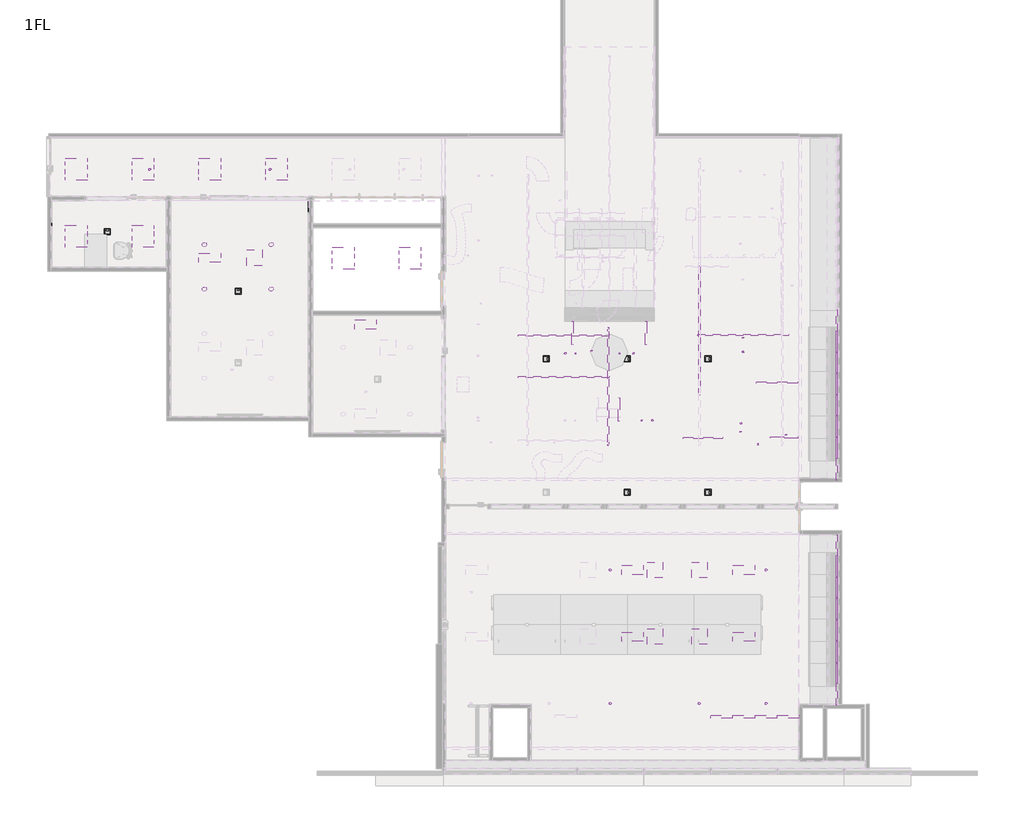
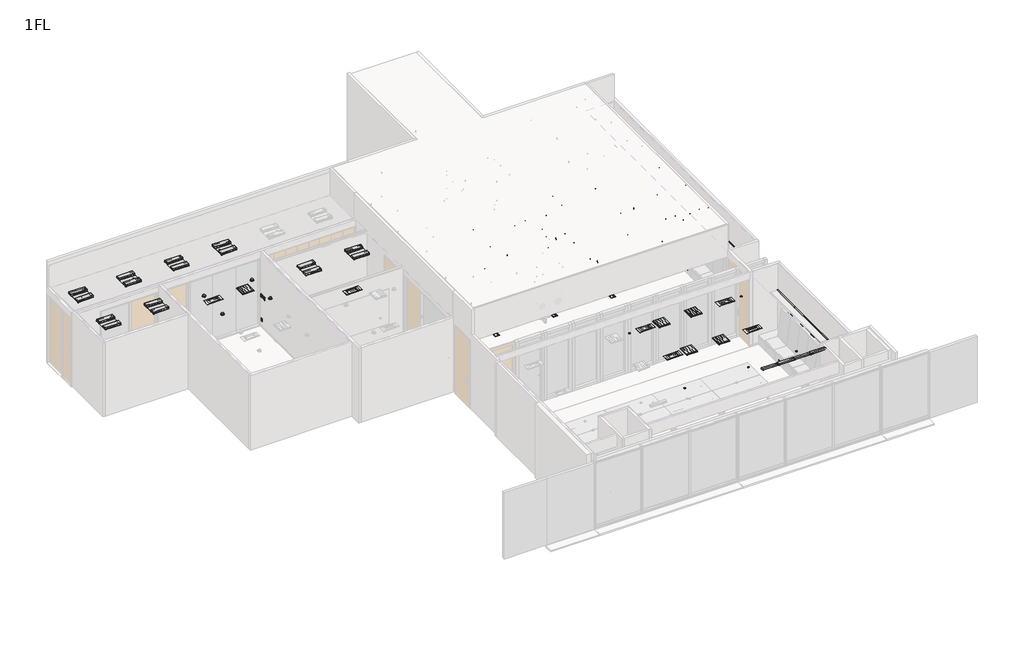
# One storey, part 8 of 13: 27 light fixtures, 18 proxies, 16 switching devices, 15 air terminals, 12 fire suppression terminals.
"""IFC4 building model written with IfcOpenShell, lengths in millimetres."""

from ifc_helpers import new_model, si_unit, origin, place, context, project, spatial, transform, mapped, element, save
from components import exhaust_grill_exhaust_grill_6b1b1e3d, exhaust_grill_02_exhaust_grill_02_eb34b7bc, exhaust_grill_03_exhaust_grill_03_8e485aa9, mechanical_equipment_2392824e, mechanical_equipment_dfcd9e7d, mechanical_equipment_e47298fa, mechanical_equipment_3a0a9f88, mechanical_equipment_328bce3f, mechanical_equipment_df2ff21b, mechanical_equipment_5023066d, mechanical_equipment_ec24bd99, mechanical_equipment_3f4d8ae7, duct_hanger_fe628b02, duct_hanger_4aceb5c8, duct_hanger_8c74980c, duct_hanger_e7696182, duct_hanger_0f291719, sprinkler_01_sprinkler_01_96afb536, sprinkler_02_sprinkler_02_93df4523, sprinkler_02_sprinkler_02_5ab57ab1, sprinkler_02_sprinkler_02_4dfef579, line_light_l1151_cde67e3c, spot_light_spot_light_ad288893, standard_light_standard_light_0c722ef9, u1_3bccbc15, switching_device_beee7f32, flooringoutlet_flooringoutlet_d7723352, outlet_01_outlet_443ef776, outlet_03_outlet_fbeceace

model = new_model("IFC4")

# Units and contexts
model_context = context("Model", 3, world=origin())
ifc_project = project(units=[si_unit("LENGTHUNIT", "METRE", prefix="MILLI")], contexts=[model_context])

# Site, building, storey
site = spatial("IfcSite", under=ifc_project)
building = spatial("IfcBuilding", under=site)
storey = spatial("IfcBuildingStorey", under=building, Name="1FL", Elevation=500.0)

# Air terminals
placement = place(None, origin())
exhaust_grill_exhaust_grill_shape = exhaust_grill_exhaust_grill_6b1b1e3d(model_context)
element("IfcAirTerminal", 1, ObjectType="Exhaust-Grill : Exhaust-Grill", at=placement, inside=storey, context=model_context, shape_type="MappedRepresentation", body=[
    mapped(exhaust_grill_exhaust_grill_shape, transform((17243.0545172, -8395.8098825, -600.0), x_axis=(1.0, 0.0, 0.0), y_axis=(0.0, 1.0, 0.0), z_axis=(0.0, 0.0, 1.0))),
])
element("IfcAirTerminal", 2, ObjectType="Exhaust-Grill : Exhaust-Grill", at=placement, inside=storey, context=model_context, shape_type="MappedRepresentation", body=[
    mapped(exhaust_grill_exhaust_grill_shape, transform((17243.0545172, -6595.809787, -600.0), x_axis=(1.0, 0.0, 0.0), y_axis=(0.0, 1.0, 0.0), z_axis=(0.0, 0.0, 1.0))),
])
element("IfcAirTerminal", 3, ObjectType="Exhaust-Grill : Exhaust-Grill", at=placement, inside=storey, context=model_context, shape_type="MappedRepresentation", body=[
    mapped(exhaust_grill_exhaust_grill_shape, transform((18443.0545172, -8395.8098825, -600.0), x_axis=(1.0, 0.0, 0.0), y_axis=(0.0, 1.0, 0.0), z_axis=(0.0, 0.0, 1.0))),
])
element("IfcAirTerminal", 4, ObjectType="Exhaust-Grill : Exhaust-Grill", at=placement, inside=storey, context=model_context, shape_type="MappedRepresentation", body=[
    mapped(exhaust_grill_exhaust_grill_shape, transform((18443.0545172, -6595.809787, -600.0), x_axis=(1.0, 0.0, 0.0), y_axis=(0.0, 1.0, 0.0), z_axis=(0.0, 0.0, 1.0))),
])
element("IfcAirTerminal", 5, ObjectType="Exhaust-Grill : Exhaust-Grill", at=placement, inside=storey, context=model_context, shape_type="MappedRepresentation", body=[
    mapped(exhaust_grill_exhaust_grill_shape, transform((6444.2212716, 1822.8786843, -600.0), x_axis=(1.0, 0.0, 0.0), y_axis=(0.0, 1.0, 0.0), z_axis=(0.0, 0.0, 1.0))),
])
exhaust_grill_02_exhaust_grill_02_shape = exhaust_grill_02_exhaust_grill_02_eb34b7bc(model_context)
element("IfcAirTerminal", 6, ObjectType="Exhaust-Grill_02 : Exhaust-Grill_02", at=placement, inside=storey, context=model_context, shape_type="MappedRepresentation", body=[
    mapped(exhaust_grill_02_exhaust_grill_02_shape, transform((16641.2355729, -8395.8098825, -600.0), x_axis=(1.0, 0.0, 0.0), y_axis=(0.0, 1.0, 0.0), z_axis=(0.0, 0.0, 1.0))),
])
element("IfcAirTerminal", 7, ObjectType="Exhaust-Grill_02 : Exhaust-Grill_02", at=placement, inside=storey, context=model_context, shape_type="MappedRepresentation", body=[
    mapped(exhaust_grill_02_exhaust_grill_02_shape, transform((16641.2355729, -6595.809787, -600.0), x_axis=(1.0, 0.0, 0.0), y_axis=(0.0, 1.0, 0.0), z_axis=(0.0, 0.0, 1.0))),
])
element("IfcAirTerminal", 8, ObjectType="Exhaust-Grill_02 : Exhaust-Grill_02", at=placement, inside=storey, context=model_context, shape_type="MappedRepresentation", body=[
    mapped(exhaust_grill_02_exhaust_grill_02_shape, transform((19640.7354661, -8395.8098825, -600.0), x_axis=(1.0, 0.0, 0.0), y_axis=(0.0, 1.0, 0.0), z_axis=(0.0, 0.0, 1.0))),
])
element("IfcAirTerminal", 9, ObjectType="Exhaust-Grill_02 : Exhaust-Grill_02", at=placement, inside=storey, context=model_context, shape_type="MappedRepresentation", body=[
    mapped(exhaust_grill_02_exhaust_grill_02_shape, transform((19640.7354661, -6595.809787, -600.0), x_axis=(1.0, 0.0, 0.0), y_axis=(0.0, 1.0, 0.0), z_axis=(0.0, 0.0, 1.0))),
])
element("IfcAirTerminal", 10, ObjectType="Exhaust-Grill_02 : Exhaust-Grill_02", at=placement, inside=storey, context=model_context, shape_type="MappedRepresentation", body=[
    mapped(exhaust_grill_02_exhaust_grill_02_shape, transform((9443.7363397, 23.3791373, -600.0), x_axis=(0.9999999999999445, -3.331627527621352e-07, 0.0), y_axis=(3.331627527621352e-07, 0.9999999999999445, 0.0), z_axis=(0.0, 0.0, 1.0))),
])
element("IfcAirTerminal", 11, ObjectType="Exhaust-Grill_02 : Exhaust-Grill_02", at=placement, inside=storey, context=model_context, shape_type="MappedRepresentation", body=[
    mapped(exhaust_grill_02_exhaust_grill_02_shape, transform((5243.73695, 1823.8796256, -600.0), x_axis=(0.9999999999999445, -3.331627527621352e-07, 0.0), y_axis=(3.331627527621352e-07, 0.9999999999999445, 0.0), z_axis=(0.0, 0.0, 1.0))),
])
exhaust_grill_03_exhaust_grill_03_shape = exhaust_grill_03_exhaust_grill_03_8e485aa9(model_context)
element("IfcAirTerminal", 12, ObjectType="Exhaust-Grill_03 : Exhaust-Grill_03", at=placement, inside=storey, context=model_context, shape_type="MappedRepresentation", body=[
    mapped(exhaust_grill_03_exhaust_grill_03_shape, transform((19041.2336084, -10551.1867364, -600.0), x_axis=(1.0, 0.0, 0.0), y_axis=(0.0, 1.0, 0.0), z_axis=(0.0, 0.0, 1.0))),
])
element("IfcAirTerminal", 13, ObjectType="Exhaust-Grill_03 : Exhaust-Grill_03", at=placement, inside=storey, context=model_context, shape_type="MappedRepresentation", body=[
    mapped(exhaust_grill_03_exhaust_grill_03_shape, transform((19641.2336084, -10551.1867364, -600.0), x_axis=(1.0, 0.0, 0.0), y_axis=(0.0, 1.0, 0.0), z_axis=(0.0, 0.0, 1.0))),
])
element("IfcAirTerminal", 14, ObjectType="Exhaust-Grill_03 : Exhaust-Grill_03", at=placement, inside=storey, context=model_context, shape_type="MappedRepresentation", body=[
    mapped(exhaust_grill_03_exhaust_grill_03_shape, transform((20241.2336084, -10551.1867364, -600.0), x_axis=(1.0, 0.0, 0.0), y_axis=(0.0, 1.0, 0.0), z_axis=(0.0, 0.0, 1.0))),
])
element("IfcAirTerminal", 15, ObjectType="Exhaust-Grill_03 : Exhaust-Grill_03", at=placement, inside=storey, context=model_context, shape_type="MappedRepresentation", body=[
    mapped(exhaust_grill_03_exhaust_grill_03_shape, transform((20841.2336084, -10551.1867364, -600.0), x_axis=(1.0, 0.0, 0.0), y_axis=(0.0, 1.0, 0.0), z_axis=(0.0, 0.0, 1.0))),
])

# Proxies
mechanical_equipment_shape = mechanical_equipment_2392824e(model_context)
element("IfcBuildingElementProxy", 16, Name="Beared-Hanger : BearedHanger", ObjectType="Beared-Hanger : BearedHanger", at=placement, inside=storey, context=model_context, shape_type="MappedRepresentation", body=[
    mapped(mechanical_equipment_shape, transform((14790.2275582, -1391.0635764, 4470.0), x_axis=(1.0, 0.0, 0.0), y_axis=(0.0, 1.0, 0.0), z_axis=(0.0, 0.0, 1.0))),
])
mechanical_equipment_2_shape = mechanical_equipment_dfcd9e7d(model_context)
element("IfcBuildingElementProxy", 17, Name="Beared-Hanger : BearedHanger", ObjectType="Beared-Hanger : BearedHanger", at=placement, inside=storey, context=model_context, shape_type="MappedRepresentation", body=[
    mapped(mechanical_equipment_2_shape, transform((20727.7959176, -3019.6866233, 4470.0), x_axis=(1.0, 0.0, 0.0), y_axis=(0.0, 1.0, 0.0), z_axis=(0.0, 0.0, 1.0))),
])
mechanical_equipment_3_shape = mechanical_equipment_e47298fa(model_context)
element("IfcBuildingElementProxy", 18, Name="Beared-Hanger : BearedHanger", ObjectType="Beared-Hanger : BearedHanger", at=placement, inside=storey, context=model_context, shape_type="MappedRepresentation", body=[
    mapped(mechanical_equipment_3_shape, transform((18547.239277, -3034.7159202, 4470.0), x_axis=(1.0, 0.0, 0.0), y_axis=(0.0, 1.0, 0.0), z_axis=(0.0, 0.0, 1.0))),
])
mechanical_equipment_4_shape = mechanical_equipment_3a0a9f88(model_context)
element("IfcBuildingElementProxy", 19, Name="Beared-Hanger : BearedHanger", ObjectType="Beared-Hanger : BearedHanger", at=placement, inside=storey, context=model_context, shape_type="MappedRepresentation", body=[
    mapped(mechanical_equipment_4_shape, transform((14790.2251656, -273.725986, 4470.0), x_axis=(0.9999999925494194, -0.0001220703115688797, 0.0), y_axis=(0.0001220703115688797, 0.9999999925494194, 0.0), z_axis=(0.0, 0.0, 1.0))),
])
mechanical_equipment_5_shape = mechanical_equipment_328bce3f(model_context)
element("IfcBuildingElementProxy", 20, Name="Beared-Hanger : BearedHanger", ObjectType="Beared-Hanger : BearedHanger", at=placement, inside=storey, context=model_context, shape_type="MappedRepresentation", body=[
    mapped(mechanical_equipment_5_shape, transform((20539.9886494, -1547.8064477, 4470.0), x_axis=(0.9999999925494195, -0.00012207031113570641, 0.0), y_axis=(0.00012207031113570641, 0.9999999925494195, 0.0), z_axis=(0.0, 0.0, 1.0))),
])
mechanical_equipment_6_shape = mechanical_equipment_df2ff21b(model_context)
element("IfcBuildingElementProxy", 21, Name="Beared-Hanger : BearedHanger", ObjectType="Beared-Hanger : BearedHanger", at=placement, inside=storey, context=model_context, shape_type="MappedRepresentation", body=[
    mapped(mechanical_equipment_6_shape, transform((19628.4653207, -258.9926536, 4470.0), x_axis=(1.0, 0.0, 0.0), y_axis=(0.0, 1.0, 0.0), z_axis=(0.0, 0.0, 1.0))),
])
mechanical_equipment_7_shape = mechanical_equipment_5023066d(model_context)
element("IfcBuildingElementProxy", 22, Name="Beared-Hanger : BearedHanger", ObjectType="Beared-Hanger : BearedHanger", at=placement, inside=storey, context=model_context, shape_type="MappedRepresentation", body=[
    mapped(mechanical_equipment_7_shape, transform((17009.0852853, -212.9611594, 4470.0), x_axis=(0.0, 1.0, 0.0), y_axis=(-1.0, 0.0, 0.0), z_axis=(0.0, 0.0, 1.0))),
])
element("IfcBuildingElementProxy", 23, Name="Beared-Hanger : BearedHanger", ObjectType="Beared-Hanger : BearedHanger", at=placement, inside=storey, context=model_context, shape_type="MappedRepresentation", body=[
    mapped(mechanical_equipment_7_shape, transform((15023.4019967, -212.9611594, 4470.0), x_axis=(0.0, 1.0, 0.0), y_axis=(-1.0, 0.0, 0.0), z_axis=(0.0, 0.0, 1.0))),
])
mechanical_equipment_8_shape = mechanical_equipment_ec24bd99(model_context)
element("IfcBuildingElementProxy", 24, Name="Beared-Hanger : BearedHanger", ObjectType="Beared-Hanger : BearedHanger", at=placement, inside=storey, context=model_context, shape_type="MappedRepresentation", body=[
    mapped(mechanical_equipment_8_shape, transform((18448.3113595, -138.1616599, 4470.0), x_axis=(0.0, 1.0, 0.0), y_axis=(-1.0, 0.0, 0.0), z_axis=(0.0, 0.0, 1.0))),
])
mechanical_equipment_9_shape = mechanical_equipment_3f4d8ae7(model_context)
element("IfcBuildingElementProxy", 25, Name="Beared-Hanger : BearedHanger", ObjectType="Beared-Hanger : BearedHanger", at=placement, inside=storey, context=model_context, shape_type="MappedRepresentation", body=[
    mapped(mechanical_equipment_9_shape, transform((16280.9686288, -2274.3361933, 4470.0), x_axis=(-0.00024414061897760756, 0.9999999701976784, 0.0), y_axis=(-0.9999999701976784, -0.00024414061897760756, 0.0), z_axis=(0.0, 0.0, 1.0))),
])
duct_hanger_shape = duct_hanger_fe628b02(model_context)
element("IfcBuildingElementProxy", 26, Name="Duct-hanger : Φ44", ObjectType="Duct-hanger : Φ44", at=placement, inside=storey, context=model_context, shape_type="MappedRepresentation", body=[
    mapped(duct_hanger_shape, transform((16281.0991403, -755.0674827, 4470.0), x_axis=(1.0, 0.0, 0.0), y_axis=(0.0, 1.0, 0.0), z_axis=(0.0, 0.0, 1.0))),
])
element("IfcBuildingElementProxy", 27, Name="Duct-hanger : Φ44", ObjectType="Duct-hanger : Φ44", at=placement, inside=storey, context=model_context, shape_type="MappedRepresentation", body=[
    mapped(duct_hanger_shape, transform((15098.6391183, -755.0674827, 4470.0), x_axis=(1.0, 0.0, 0.0), y_axis=(0.0, 1.0, 0.0), z_axis=(0.0, 0.0, 1.0))),
])
element("IfcBuildingElementProxy", 28, Name="Duct-hanger : Φ44", ObjectType="Duct-hanger : Φ44", at=placement, inside=storey, context=model_context, shape_type="MappedRepresentation", body=[
    mapped(duct_hanger_shape, transform((15535.9413644, -689.2801291, 4470.0), x_axis=(0.0, 1.0, 0.0), y_axis=(-1.0, 0.0, 0.0), z_axis=(0.0, 0.0, 1.0))),
])
duct_hanger_2_shape = duct_hanger_4aceb5c8(model_context)
element("IfcBuildingElementProxy", 29, Name="Duct-hanger : Φ44", ObjectType="Duct-hanger : Φ44", at=placement, inside=storey, context=model_context, shape_type="MappedRepresentation", body=[
    mapped(duct_hanger_2_shape, transform((16885.6764718, -2563.3401877, 4470.0), x_axis=(1.0, 0.0, 0.0), y_axis=(0.0, 1.0, 0.0), z_axis=(0.0, 0.0, 1.0))),
])
duct_hanger_3_shape = duct_hanger_8c74980c(model_context)
element("IfcBuildingElementProxy", 30, Name="Duct-hanger : Φ44", ObjectType="Duct-hanger : Φ44", at=placement, inside=storey, context=model_context, shape_type="MappedRepresentation", body=[
    mapped(duct_hanger_3_shape, transform((20021.0381051, -3208.2901389, 4470.0), x_axis=(1.0, 0.0, 0.0), y_axis=(0.0, 1.0, 0.0), z_axis=(0.0, 0.0, 1.0))),
])
element("IfcBuildingElementProxy", 31, Name="Duct-hanger : Φ44", ObjectType="Duct-hanger : Φ44", at=placement, inside=storey, context=model_context, shape_type="MappedRepresentation", body=[
    mapped(duct_hanger_3_shape, transform((20778.6833688, -2952.1268088, 4470.0), x_axis=(0.0, 1.0, 0.0), y_axis=(-1.0, 0.0, 0.0), z_axis=(0.0, 0.0, 1.0))),
])
duct_hanger_4_shape = duct_hanger_e7696182(model_context)
element("IfcBuildingElementProxy", 32, Name="Duct-hanger : Φ44", ObjectType="Duct-hanger : Φ44", at=placement, inside=storey, context=model_context, shape_type="MappedRepresentation", body=[
    mapped(duct_hanger_4_shape, transform((19557.1605416, -2869.9258811, 4470.0), x_axis=(0.0, 1.0, 0.0), y_axis=(-1.0, 0.0, 0.0), z_axis=(0.0, 0.0, 1.0))),
])
duct_hanger_5_shape = duct_hanger_0f291719(model_context)
element("IfcBuildingElementProxy", 33, Name="Duct-hanger : Φ44", ObjectType="Duct-hanger : Φ44", at=placement, inside=storey, context=model_context, shape_type="MappedRepresentation", body=[
    mapped(duct_hanger_5_shape, transform((19618.6610033, -336.3675315, 4470.0), x_axis=(0.0, 1.0, 0.0), y_axis=(-1.0, 0.0, 0.0), z_axis=(0.0, 0.0, 1.0))),
])

# Fire suppression terminals
sprinkler_01_sprinkler_01_shape = sprinkler_01_sprinkler_01_96afb536(model_context)
element("IfcFireSuppressionTerminal", 34, ObjectType="Sprinkler_01 : Sprinkler_01", at=placement, inside=storey, context=model_context, shape_type="MappedRepresentation", body=[
    mapped(sprinkler_01_sprinkler_01_shape, transform((17184.2203073, -2563.2078347, 3428.3177162), x_axis=(1.0, 0.0, 0.0), y_axis=(0.0, 1.0, 0.0), z_axis=(0.0, 0.0, 1.0))),
])
element("IfcFireSuppressionTerminal", 35, ObjectType="Sprinkler_01 : Sprinkler_01", at=placement, inside=storey, context=model_context, shape_type="MappedRepresentation", body=[
    mapped(sprinkler_01_sprinkler_01_shape, transform((19573.2630541, -2644.1475178, 3445.3253356), x_axis=(1.0, 0.0, 0.0), y_axis=(0.0, 1.0, 0.0), z_axis=(0.0, 0.0, 1.0))),
])
element("IfcFireSuppressionTerminal", 36, ObjectType="Sprinkler_01 : Sprinkler_01", at=placement, inside=storey, context=model_context, shape_type="MappedRepresentation", body=[
    mapped(sprinkler_01_sprinkler_01_shape, transform((19618.6610033, -717.0297731, 3571.3965069), x_axis=(1.0, 0.0, 0.0), y_axis=(0.0, 1.0, 0.0), z_axis=(0.0, 0.0, 1.0))),
])
element("IfcFireSuppressionTerminal", 37, ObjectType="Sprinkler_01 : Sprinkler_01", at=placement, inside=storey, context=model_context, shape_type="MappedRepresentation", body=[
    mapped(sprinkler_01_sprinkler_01_shape, transform((16667.8778305, -755.0087643, 3429.8580919), x_axis=(1.0, 0.0, 0.0), y_axis=(0.0, 1.0, 0.0), z_axis=(0.0, 0.0, 1.0))),
])
element("IfcFireSuppressionTerminal", 38, ObjectType="Sprinkler_01 : Sprinkler_01", at=placement, inside=storey, context=model_context, shape_type="MappedRepresentation", body=[
    mapped(sprinkler_01_sprinkler_01_shape, transform((14830.4788924, -755.0087643, 3429.8580936), x_axis=(1.0, 0.0, 0.0), y_axis=(0.0, 1.0, 0.0), z_axis=(0.0, 0.0, 1.0))),
])
sprinkler_02_sprinkler_02_shape = sprinkler_02_sprinkler_02_93df4523(model_context)
element("IfcFireSuppressionTerminal", 39, ObjectType="Sprinkler_02 : Sprinkler_02", at=placement, inside=storey, context=model_context, shape_type="MappedRepresentation", body=[
    mapped(sprinkler_02_sprinkler_02_shape, transform((6865.4247519, 4204.1909525, -600.0), x_axis=(1.0, 0.0, 0.0), y_axis=(0.0, 1.0, 0.0), z_axis=(0.0, 0.0, 1.0))),
])
sprinkler_02_sprinkler_02_2_shape = sprinkler_02_sprinkler_02_5ab57ab1(model_context)
element("IfcFireSuppressionTerminal", 40, ObjectType="Sprinkler_02 : Sprinkler_02", at=placement, inside=storey, context=model_context, shape_type="MappedRepresentation", body=[
    mapped(sprinkler_02_sprinkler_02_2_shape, transform((3617.2792396, 4204.1909525, -600.0), x_axis=(-1.0, 0.0, 0.0), y_axis=(0.0, -1.0, 0.0), z_axis=(0.0, 0.0, 1.0))),
])
sprinkler_02_sprinkler_02_3_shape = sprinkler_02_sprinkler_02_4dfef579(model_context)
element("IfcFireSuppressionTerminal", 41, ObjectType="Sprinkler_02 : Sprinkler_02", at=placement, inside=storey, context=model_context, shape_type="MappedRepresentation", body=[
    mapped(sprinkler_02_sprinkler_02_3_shape, transform((16043.0692877, -6595.8078306, -600.0), x_axis=(-1.0, 0.0, 0.0), y_axis=(0.0, -1.0, 0.0), z_axis=(0.0, 0.0, 1.0))),
])
element("IfcFireSuppressionTerminal", 42, ObjectType="Sprinkler_02 : Sprinkler_02", at=placement, inside=storey, context=model_context, shape_type="MappedRepresentation", body=[
    mapped(sprinkler_02_sprinkler_02_3_shape, transform((16043.0692877, -10195.8078306, -600.0), x_axis=(-1.0, 0.0, 0.0), y_axis=(0.0, -1.0, 0.0), z_axis=(0.0, 0.0, 1.0))),
])
element("IfcFireSuppressionTerminal", 43, ObjectType="Sprinkler_02 : Sprinkler_02", at=placement, inside=storey, context=model_context, shape_type="MappedRepresentation", body=[
    mapped(sprinkler_02_sprinkler_02_3_shape, transform((18443.0692877, -10195.8078306, -600.0), x_axis=(-1.0, 0.0, 0.0), y_axis=(0.0, -1.0, 0.0), z_axis=(0.0, 0.0, 1.0))),
])
element("IfcFireSuppressionTerminal", 44, ObjectType="Sprinkler_02 : Sprinkler_02", at=placement, inside=storey, context=model_context, shape_type="MappedRepresentation", body=[
    mapped(sprinkler_02_sprinkler_02_3_shape, transform((20243.0692877, -10195.8078306, -600.0), x_axis=(-1.0, 0.0, 0.0), y_axis=(0.0, -1.0, 0.0), z_axis=(0.0, 0.0, 1.0))),
])
element("IfcFireSuppressionTerminal", 45, ObjectType="Sprinkler_02 : Sprinkler_02", at=placement, inside=storey, context=model_context, shape_type="MappedRepresentation", body=[
    mapped(sprinkler_02_sprinkler_02_3_shape, transform((20243.0692877, -6595.8078306, -600.0), x_axis=(-1.0, 0.0, 0.0), y_axis=(0.0, -1.0, 0.0), z_axis=(0.0, 0.0, 1.0))),
])

# Light fixtures
line_light_l1151_shape = line_light_l1151_cde67e3c(model_context)
element("IfcLightFixture", 46, ObjectType="Line-Light : L1151", at=placement, inside=storey, context=model_context, shape_type="MappedRepresentation", body=[
    mapped(line_light_l1151_shape, transform((22160.569283, -144.1666849, 2400.0), x_axis=(0.0, 1.0, 0.0), y_axis=(1.0, 0.0, 0.0), z_axis=(0.0, 0.0, -1.0))),
])
element("IfcLightFixture", 47, ObjectType="Line-Light : L1151", at=placement, inside=storey, context=model_context, shape_type="MappedRepresentation", body=[
    mapped(line_light_l1151_shape, transform((22160.569283, -1295.1666849, 2400.0), x_axis=(0.0, 1.0, 0.0), y_axis=(1.0, 0.0, 0.0), z_axis=(0.0, 0.0, -1.0))),
])
element("IfcLightFixture", 48, ObjectType="Line-Light : L1151", at=placement, inside=storey, context=model_context, shape_type="MappedRepresentation", body=[
    mapped(line_light_l1151_shape, transform((22160.569283, -2446.1666849, 2400.0), x_axis=(0.0, 1.0, 0.0), y_axis=(1.0, 0.0, 0.0), z_axis=(0.0, 0.0, -1.0))),
])
element("IfcLightFixture", 49, ObjectType="Line-Light : L1151", at=placement, inside=storey, context=model_context, shape_type="MappedRepresentation", body=[
    mapped(line_light_l1151_shape, transform((22160.569283, -3597.1666849, 2400.0), x_axis=(0.0, 1.0, 0.0), y_axis=(1.0, 0.0, 0.0), z_axis=(0.0, 0.0, -1.0))),
])
element("IfcLightFixture", 50, ObjectType="Line-Light : L1151", at=placement, inside=storey, context=model_context, shape_type="MappedRepresentation", body=[
    mapped(line_light_l1151_shape, transform((22160.569283, -6217.7797018, 2400.0), x_axis=(0.0, 1.0, 0.0), y_axis=(1.0, 0.0, 0.0), z_axis=(0.0, 0.0, -1.0))),
])
element("IfcLightFixture", 51, ObjectType="Line-Light : L1151", at=placement, inside=storey, context=model_context, shape_type="MappedRepresentation", body=[
    mapped(line_light_l1151_shape, transform((22160.569283, -7368.7797018, 2400.0), x_axis=(0.0, 1.0, 0.0), y_axis=(1.0, 0.0, 0.0), z_axis=(0.0, 0.0, -1.0))),
])
element("IfcLightFixture", 52, ObjectType="Line-Light : L1151", at=placement, inside=storey, context=model_context, shape_type="MappedRepresentation", body=[
    mapped(line_light_l1151_shape, transform((22160.569283, -8519.7797018, 2400.0), x_axis=(0.0, 1.0, 0.0), y_axis=(1.0, 0.0, 0.0), z_axis=(0.0, 0.0, -1.0))),
])
element("IfcLightFixture", 53, ObjectType="Line-Light : L1151", at=placement, inside=storey, context=model_context, shape_type="MappedRepresentation", body=[
    mapped(line_light_l1151_shape, transform((22160.569283, -9670.7797018, 2400.0), x_axis=(0.0, 1.0, 0.0), y_axis=(1.0, 0.0, 0.0), z_axis=(0.0, 0.0, -1.0))),
])
element("IfcLightFixture", 54, ObjectType="Line-Light : L1151", at=placement, inside=storey, context=model_context, shape_type="MappedRepresentation", body=[
    mapped(line_light_l1151_shape, transform((22160.569283, -717.2202707, 1950.0), x_axis=(0.0, 1.0, 0.0), y_axis=(1.0, 0.0, 0.0), z_axis=(0.0, 0.0, -1.0))),
])
element("IfcLightFixture", 55, ObjectType="Line-Light : L1151", at=placement, inside=storey, context=model_context, shape_type="MappedRepresentation", body=[
    mapped(line_light_l1151_shape, transform((22160.569283, -1868.2202707, 1950.0), x_axis=(0.0, 1.0, 0.0), y_axis=(1.0, 0.0, 0.0), z_axis=(0.0, 0.0, -1.0))),
])
element("IfcLightFixture", 56, ObjectType="Line-Light : L1151", at=placement, inside=storey, context=model_context, shape_type="MappedRepresentation", body=[
    mapped(line_light_l1151_shape, transform((22160.569283, -3019.2202707, 1950.0), x_axis=(0.0, 1.0, 0.0), y_axis=(1.0, 0.0, 0.0), z_axis=(0.0, 0.0, -1.0))),
])
element("IfcLightFixture", 57, ObjectType="Line-Light : L1151", at=placement, inside=storey, context=model_context, shape_type="MappedRepresentation", body=[
    mapped(line_light_l1151_shape, transform((22160.569283, -6780.5437704, 1950.0), x_axis=(0.0, 1.0, 0.0), y_axis=(1.0, 0.0, 0.0), z_axis=(0.0, 0.0, -1.0))),
])
element("IfcLightFixture", 58, ObjectType="Line-Light : L1151", at=placement, inside=storey, context=model_context, shape_type="MappedRepresentation", body=[
    mapped(line_light_l1151_shape, transform((22160.569283, -7931.5437704, 1950.0), x_axis=(0.0, 1.0, 0.0), y_axis=(1.0, 0.0, 0.0), z_axis=(0.0, 0.0, -1.0))),
])
element("IfcLightFixture", 59, ObjectType="Line-Light : L1151", at=placement, inside=storey, context=model_context, shape_type="MappedRepresentation", body=[
    mapped(line_light_l1151_shape, transform((22160.569283, -9082.5437704, 1950.0), x_axis=(0.0, 1.0, 0.0), y_axis=(1.0, 0.0, 0.0), z_axis=(0.0, 0.0, -1.0))),
])
spot_light_spot_light_shape = spot_light_spot_light_ad288893(model_context)
element("IfcLightFixture", 60, ObjectType="Spot-Light : Spot-Light", at=placement, inside=storey, context=model_context, shape_type="MappedRepresentation", body=[
    mapped(spot_light_spot_light_shape, transform((15985.2995821, -1653.5208518, 3665.3185509), x_axis=(-1.0, 0.0, 0.0), y_axis=(0.0, 1.0, 0.0), z_axis=(0.0, 0.0, -1.0))),
])
standard_light_standard_light_shape = standard_light_standard_light_0c722ef9(model_context)
element("IfcLightFixture", 61, ObjectType="Standard -Light : Standard -Light", at=placement, inside=storey, context=model_context, shape_type="MappedRepresentation", body=[
    mapped(standard_light_standard_light_shape, transform((7042.4247519, 4204.1909525, -600.0), x_axis=(1.0, 0.0, 0.0), y_axis=(0.0, 1.0, 0.0), z_axis=(0.0, 0.0, 1.0))),
])
element("IfcLightFixture", 62, ObjectType="Standard -Light : Standard -Light", at=placement, inside=storey, context=model_context, shape_type="MappedRepresentation", body=[
    mapped(standard_light_standard_light_shape, transform((5242.6019957, 4204.1909525, -600.0), x_axis=(1.0, 0.0, 0.0), y_axis=(0.0, 1.0, 0.0), z_axis=(0.0, 0.0, 1.0))),
])
element("IfcLightFixture", 63, ObjectType="Standard -Light : Standard -Light", at=placement, inside=storey, context=model_context, shape_type="MappedRepresentation", body=[
    mapped(standard_light_standard_light_shape, transform((3442.7792396, 4204.1909525, -600.0), x_axis=(1.0, 0.0, 0.0), y_axis=(0.0, 1.0, 0.0), z_axis=(0.0, 0.0, 1.0))),
])
element("IfcLightFixture", 64, ObjectType="Standard -Light : Standard -Light", at=placement, inside=storey, context=model_context, shape_type="MappedRepresentation", body=[
    mapped(standard_light_standard_light_shape, transform((1642.9564834, 4204.1909525, -600.0), x_axis=(1.0, 0.0, 0.0), y_axis=(0.0, 1.0, 0.0), z_axis=(0.0, 0.0, 1.0))),
])
element("IfcLightFixture", 65, ObjectType="Standard -Light : Standard -Light", at=placement, inside=storey, context=model_context, shape_type="MappedRepresentation", body=[
    mapped(standard_light_standard_light_shape, transform((3442.0702643, 2404.1909525, -600.0), x_axis=(1.0, 0.0, 0.0), y_axis=(0.0, 1.0, 0.0), z_axis=(0.0, 0.0, 1.0))),
])
element("IfcLightFixture", 66, ObjectType="Standard -Light : Standard -Light", at=placement, inside=storey, context=model_context, shape_type="MappedRepresentation", body=[
    mapped(standard_light_standard_light_shape, transform((1642.0702643, 2404.1909525, -600.0), x_axis=(1.0, 0.0, 0.0), y_axis=(0.0, 1.0, 0.0), z_axis=(0.0, 0.0, 1.0))),
])
element("IfcLightFixture", 67, ObjectType="Standard -Light : Standard -Light", at=placement, inside=storey, context=model_context, shape_type="MappedRepresentation", body=[
    mapped(standard_light_standard_light_shape, transform((8842.0702643, 1804.1909525, -600.0), x_axis=(1.0, 0.0, 0.0), y_axis=(0.0, 1.0, 0.0), z_axis=(0.0, 0.0, 1.0))),
])
element("IfcLightFixture", 68, ObjectType="Standard -Light : Standard -Light", at=placement, inside=storey, context=model_context, shape_type="MappedRepresentation", body=[
    mapped(standard_light_standard_light_shape, transform((10642.0702643, 1804.1909525, -600.0), x_axis=(1.0, 0.0, 0.0), y_axis=(0.0, 1.0, 0.0), z_axis=(0.0, 0.0, 1.0))),
])
u1_shape = u1_3bccbc15(model_context)
element("IfcLightFixture", 69, ObjectType="Celing -Light : U1", at=placement, inside=storey, context=model_context, shape_type="MappedRepresentation", body=[
    mapped(u1_shape, transform((5098.4828042, 976.2601935, 3400.0), x_axis=(1.0, 0.0, 0.0), y_axis=(0.0, -1.0, 0.0), z_axis=(0.0, 0.0, -1.0))),
])
element("IfcLightFixture", 70, ObjectType="Celing -Light : U1", at=placement, inside=storey, context=model_context, shape_type="MappedRepresentation", body=[
    mapped(u1_shape, transform((5098.4828042, 2176.142031, 3400.0), x_axis=(1.0, 0.0, 0.0), y_axis=(0.0, -1.0, 0.0), z_axis=(0.0, 0.0, -1.0))),
])
element("IfcLightFixture", 71, ObjectType="Celing -Light : U1", at=placement, inside=storey, context=model_context, shape_type="MappedRepresentation", body=[
    mapped(u1_shape, transform((6898.3018676, 976.2601935, 3400.0), x_axis=(1.0, 0.0, 0.0), y_axis=(0.0, -1.0, 0.0), z_axis=(0.0, 0.0, -1.0))),
])
element("IfcLightFixture", 72, ObjectType="Celing -Light : U1", at=placement, inside=storey, context=model_context, shape_type="MappedRepresentation", body=[
    mapped(u1_shape, transform((6898.3018676, 2176.142031, 3400.0), x_axis=(1.0, 0.0, 0.0), y_axis=(0.0, -1.0, 0.0), z_axis=(0.0, 0.0, -1.0))),
])

# Switching devices
switching_device_shape = switching_device_beee7f32(model_context)
element("IfcSwitchingDevice", 73, ObjectType="Light-Swich_01 : Light-Swich", at=placement, inside=storey, context=model_context, shape_type="MappedRepresentation", body=[
    mapped(switching_device_shape, transform((7918.0823031, 2995.0744241, 500.0), x_axis=(0.0, 1.0, 0.0), y_axis=(-1.0, 0.0, 0.0), z_axis=(0.0, 0.0, 1.0))),
])
element("IfcSwitchingDevice", 74, ObjectType="Light-Swich_01 : Light-Swich", at=placement, inside=storey, context=model_context, shape_type="MappedRepresentation", body=[
    mapped(switching_device_shape, transform((7918.0823031, 3147.6946633, 500.0), x_axis=(0.0, 1.0, 0.0), y_axis=(-1.0, 0.0, 0.0), z_axis=(0.0, 0.0, 1.0))),
])
flooringoutlet_flooringoutlet_shape = flooringoutlet_flooringoutlet_d7723352(model_context)
element("IfcSwitchingDevice", 75, ObjectType="FlooringOutlet : FlooringOutlet", at=placement, inside=storey, context=model_context, shape_type="MappedRepresentation", body=[
    mapped(flooringoutlet_flooringoutlet_shape, transform((18677.4519922, -4503.4980557, 500.0), x_axis=(-1.1874438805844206e-07, -0.9999999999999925, 0.0), y_axis=(0.9999999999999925, -1.1874438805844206e-07, 0.0), z_axis=(0.0, 0.0, 1.0))),
])
element("IfcSwitchingDevice", 76, ObjectType="FlooringOutlet : FlooringOutlet", at=placement, inside=storey, context=model_context, shape_type="MappedRepresentation", body=[
    mapped(flooringoutlet_flooringoutlet_shape, transform((16496.1765643, -4503.4977967, 500.0), x_axis=(-1.1874438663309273e-07, -0.9999999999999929, 0.0), y_axis=(0.9999999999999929, -1.1874438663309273e-07, 0.0), z_axis=(0.0, 0.0, 1.0))),
])
element("IfcSwitchingDevice", 77, ObjectType="FlooringOutlet : FlooringOutlet", at=placement, inside=storey, context=model_context, shape_type="MappedRepresentation", body=[
    mapped(flooringoutlet_flooringoutlet_shape, transform((18677.4519922, -903.6927483, 500.0), x_axis=(-1.1874438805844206e-07, -0.9999999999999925, 0.0), y_axis=(0.9999999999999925, -1.1874438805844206e-07, 0.0), z_axis=(0.0, 0.0, 1.0))),
])
element("IfcSwitchingDevice", 78, ObjectType="FlooringOutlet : FlooringOutlet", at=placement, inside=storey, context=model_context, shape_type="MappedRepresentation", body=[
    mapped(flooringoutlet_flooringoutlet_shape, transform((16496.1765643, -903.6924893, 500.0), x_axis=(-1.1874438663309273e-07, -0.9999999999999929, 0.0), y_axis=(0.9999999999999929, -1.1874438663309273e-07, 0.0), z_axis=(0.0, 0.0, 1.0))),
])
element("IfcSwitchingDevice", 79, ObjectType="FlooringOutlet : FlooringOutlet", at=placement, inside=storey, context=model_context, shape_type="MappedRepresentation", body=[
    mapped(flooringoutlet_flooringoutlet_shape, transform((14314.9014657, -903.6922303, 500.0), x_axis=(-1.1874438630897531e-07, -0.9999999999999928, 0.0), y_axis=(0.9999999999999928, -1.1874438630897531e-07, 0.0), z_axis=(0.0, 0.0, 1.0))),
])
element("IfcSwitchingDevice", 80, ObjectType="FlooringOutlet : FlooringOutlet", at=placement, inside=storey, context=model_context, shape_type="MappedRepresentation", body=[
    mapped(flooringoutlet_flooringoutlet_shape, transform((6006.2180768, 921.2484233, 500.0), x_axis=(0.9999999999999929, -1.187443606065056e-07, 0.0), y_axis=(1.187443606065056e-07, 0.9999999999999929, 0.0), z_axis=(0.0, 0.0, 1.0))),
])
element("IfcSwitchingDevice", 81, ObjectType="FlooringOutlet : FlooringOutlet", at=placement, inside=storey, context=model_context, shape_type="MappedRepresentation", body=[
    mapped(flooringoutlet_flooringoutlet_shape, transform((2479.6956684, 2526.8014019, 500.0), x_axis=(0.9999999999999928, -1.1874436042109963e-07, 0.0), y_axis=(1.1874436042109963e-07, 0.9999999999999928, 0.0), z_axis=(0.0, 0.0, 1.0))),
])
outlet_01_outlet_shape = outlet_01_outlet_443ef776(model_context)
element("IfcSwitchingDevice", 82, ObjectType="Outlet_01 : Outlet", at=placement, inside=storey, context=model_context, shape_type="MappedRepresentation", body=[
    mapped(outlet_01_outlet_shape, transform((7908.0480096, 3272.6946633, 799.9997567), x_axis=(0.0, 1.0, 0.0), y_axis=(0.0, 0.0, -1.0), z_axis=(-1.0, 0.0, 0.0))),
])
element("IfcSwitchingDevice", 83, ObjectType="Outlet_01 : Outlet", at=placement, inside=storey, context=model_context, shape_type="MappedRepresentation", body=[
    mapped(outlet_01_outlet_shape, transform((973.1488246, 2714.4881814, 1749.9996422), x_axis=(0.0, 1.0, 0.0), y_axis=(0.0, 0.0, 1.0), z_axis=(1.0, 0.0, 0.0))),
])
element("IfcSwitchingDevice", 84, ObjectType="Outlet_01 : Outlet", at=placement, inside=storey, context=model_context, shape_type="MappedRepresentation", body=[
    mapped(outlet_01_outlet_shape, transform((4074.3903689, 1798.2827371, 799.9996804), x_axis=(0.0, -1.0, 0.0), y_axis=(0.0, 0.0, 1.0), z_axis=(-1.0, 0.0, 0.0))),
])
outlet_03_outlet_shape = outlet_03_outlet_fbeceace(model_context)
element("IfcSwitchingDevice", 85, ObjectType="Outlet_03 : Outlet", at=placement, inside=storey, context=model_context, shape_type="MappedRepresentation", body=[
    mapped(outlet_03_outlet_shape, transform((21440.569283, -2778.2889182, 669.9994586), x_axis=(0.0, -1.0, 0.0), y_axis=(0.0, 0.0, 1.0), z_axis=(-1.0, 0.0, 0.0))),
])
element("IfcSwitchingDevice", 86, ObjectType="Outlet_03 : Outlet", at=placement, inside=storey, context=model_context, shape_type="MappedRepresentation", body=[
    mapped(outlet_03_outlet_shape, transform((21440.569283, -984.3344504, 669.9995349), x_axis=(0.0, -1.0, 0.0), y_axis=(0.0, 0.0, 1.0), z_axis=(-1.0, 0.0, 0.0))),
])
element("IfcSwitchingDevice", 87, ObjectType="Outlet_03 : Outlet", at=placement, inside=storey, context=model_context, shape_type="MappedRepresentation", body=[
    mapped(outlet_03_outlet_shape, transform((21440.569283, -7039.9661643, 669.9992678), x_axis=(0.0, -1.0, 0.0), y_axis=(0.0, 0.0, 1.0), z_axis=(-1.0, 0.0, 0.0))),
])
element("IfcSwitchingDevice", 88, ObjectType="Outlet_03 : Outlet", at=placement, inside=storey, context=model_context, shape_type="MappedRepresentation", body=[
    mapped(outlet_03_outlet_shape, transform((21440.569283, -8833.9505393, 669.9991916), x_axis=(0.0, -1.0, 0.0), y_axis=(0.0, 0.0, 1.0), z_axis=(-1.0, 0.0, 0.0))),
])

save(model, "model.ifc")
